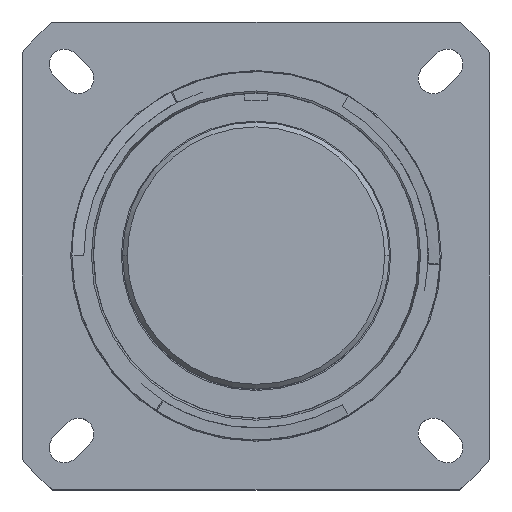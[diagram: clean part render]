
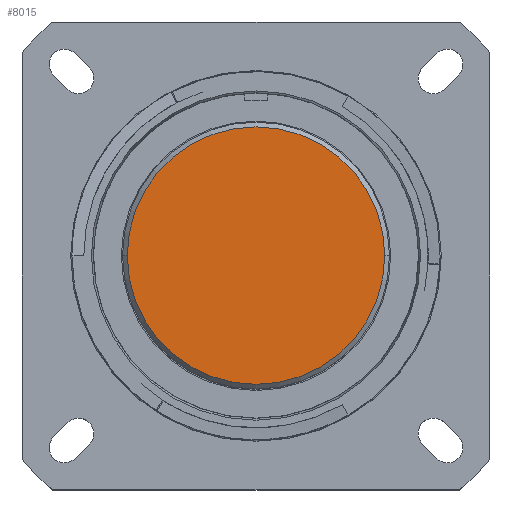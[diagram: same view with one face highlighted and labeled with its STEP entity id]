
A CAD part, top view. The second image highlights one B-rep face of the part: STEP entity #8015.
In plain terms, the highlighted planar face has unit normal (0, 0, 1).
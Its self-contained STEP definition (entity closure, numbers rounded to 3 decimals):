
#324 = DIRECTION ( 'NONE',  ( 0., 0., 1. ) ) ;
#852 = EDGE_CURVE ( 'NONE', #5801, #5257, #7407, .T. ) ;
#877 = EDGE_CURVE ( 'NONE', #5257, #5801, #1534, .T. ) ;
#1534 = CIRCLE ( 'NONE', #4928, 13.767 ) ;
#1564 = DIRECTION ( 'NONE',  ( 0., 0., 1. ) ) ;
#2002 = PLANE ( 'NONE',  #5901 ) ;
#4130 = CARTESIAN_POINT ( 'NONE',  ( 0., 0., -0.457 ) ) ;
#4212 = ORIENTED_EDGE ( 'NONE', *, *, #852, .T. ) ;
#4384 = DIRECTION ( 'NONE',  ( 1., 0., 0. ) ) ;
#4561 = DIRECTION ( 'NONE',  ( 1., 0., 0. ) ) ;
#4774 = AXIS2_PLACEMENT_3D ( 'NONE', #7872, #1564, #4384 ) ;
#4928 = AXIS2_PLACEMENT_3D ( 'NONE', #5247, #324, #4561 ) ;
#5247 = CARTESIAN_POINT ( 'NONE',  ( 0., 0., -0.457 ) ) ;
#5257 = VERTEX_POINT ( 'NONE', #7583 ) ;
#5801 = VERTEX_POINT ( 'NONE', #7411 ) ;
#5901 = AXIS2_PLACEMENT_3D ( 'NONE', #4130, #9102, #6943 ) ;
#6199 = FACE_OUTER_BOUND ( 'NONE', #6731, .T. ) ;
#6731 = EDGE_LOOP ( 'NONE', ( #6940, #4212 ) ) ;
#6940 = ORIENTED_EDGE ( 'NONE', *, *, #877, .T. ) ;
#6943 = DIRECTION ( 'NONE',  ( 1., 0., 0. ) ) ;
#7407 = CIRCLE ( 'NONE', #4774, 13.767 ) ;
#7411 = CARTESIAN_POINT ( 'NONE',  ( 13.767, 0., -0.457 ) ) ;
#7583 = CARTESIAN_POINT ( 'NONE',  ( -13.767, 0., -0.457 ) ) ;
#7872 = CARTESIAN_POINT ( 'NONE',  ( 0., 0., -0.457 ) ) ;
#8015 = ADVANCED_FACE ( 'NONE', ( #6199 ), #2002, .T. ) ;
#9102 = DIRECTION ( 'NONE',  ( 0., 0., 1. ) ) ;
